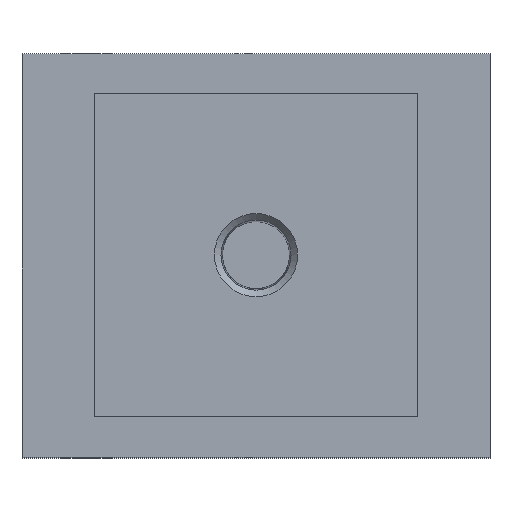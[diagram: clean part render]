
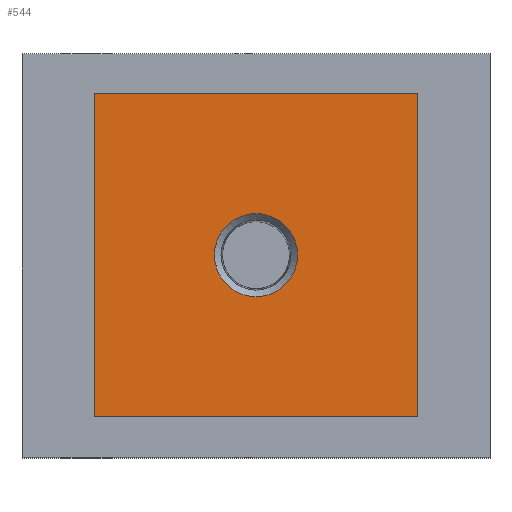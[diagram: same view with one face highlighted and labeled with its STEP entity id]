
A CAD part, top view. The second image highlights one B-rep face of the part: STEP entity #544.
In plain terms, the highlighted planar face has unit normal (0, 0, 1).
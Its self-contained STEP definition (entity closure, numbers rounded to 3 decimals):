
#25=LINE('',#836,#61);
#28=LINE('',#842,#64);
#31=LINE('',#848,#67);
#34=LINE('',#852,#70);
#61=VECTOR('',#665,40.);
#64=VECTOR('',#670,40.);
#67=VECTOR('',#675,40.);
#70=VECTOR('',#680,40.);
#100=PLANE('',#590);
#120=FACE_BOUND('',#199,.T.);
#121=FACE_BOUND('',#200,.T.);
#199=EDGE_LOOP('',(#424));
#200=EDGE_LOOP('',(#425,#426,#427,#428));
#262=CIRCLE('',#581,5.15);
#289=VERTEX_POINT('',#821);
#294=VERTEX_POINT('',#833);
#295=VERTEX_POINT('',#835);
#297=VERTEX_POINT('',#841);
#299=VERTEX_POINT('',#847);
#340=EDGE_CURVE('',#289,#289,#262,.T.);
#345=EDGE_CURVE('',#295,#294,#25,.T.);
#348=EDGE_CURVE('',#297,#295,#28,.T.);
#351=EDGE_CURVE('',#299,#297,#31,.T.);
#354=EDGE_CURVE('',#294,#299,#34,.T.);
#424=ORIENTED_EDGE('',*,*,#340,.T.);
#425=ORIENTED_EDGE('',*,*,#354,.T.);
#426=ORIENTED_EDGE('',*,*,#351,.T.);
#427=ORIENTED_EDGE('',*,*,#348,.T.);
#428=ORIENTED_EDGE('',*,*,#345,.T.);
#544=ADVANCED_FACE('',(#120,#121),#100,.T.);
#581=AXIS2_PLACEMENT_3D('',#822,#651,#652);
#590=AXIS2_PLACEMENT_3D('',#853,#681,#682);
#651=DIRECTION('center_axis',(0.,0.,-1.));
#652=DIRECTION('ref_axis',(1.,0.,0.));
#665=DIRECTION('',(0.,1.,0.));
#670=DIRECTION('',(1.,0.,0.));
#675=DIRECTION('',(0.,-1.,0.));
#680=DIRECTION('',(-1.,0.,0.));
#681=DIRECTION('center_axis',(0.,0.,1.));
#682=DIRECTION('ref_axis',(1.,0.,0.));
#821=CARTESIAN_POINT('',(5.15,0.,67.));
#822=CARTESIAN_POINT('Origin',(0.,0.,67.));
#833=CARTESIAN_POINT('',(20.,20.,67.));
#835=CARTESIAN_POINT('',(20.,-20.,67.));
#836=CARTESIAN_POINT('',(20.,20.,67.));
#841=CARTESIAN_POINT('',(-20.,-20.,67.));
#842=CARTESIAN_POINT('',(20.,-20.,67.));
#847=CARTESIAN_POINT('',(-20.,20.,67.));
#848=CARTESIAN_POINT('',(-20.,-20.,67.));
#852=CARTESIAN_POINT('',(-20.,20.,67.));
#853=CARTESIAN_POINT('Origin',(0.,0.,67.));
